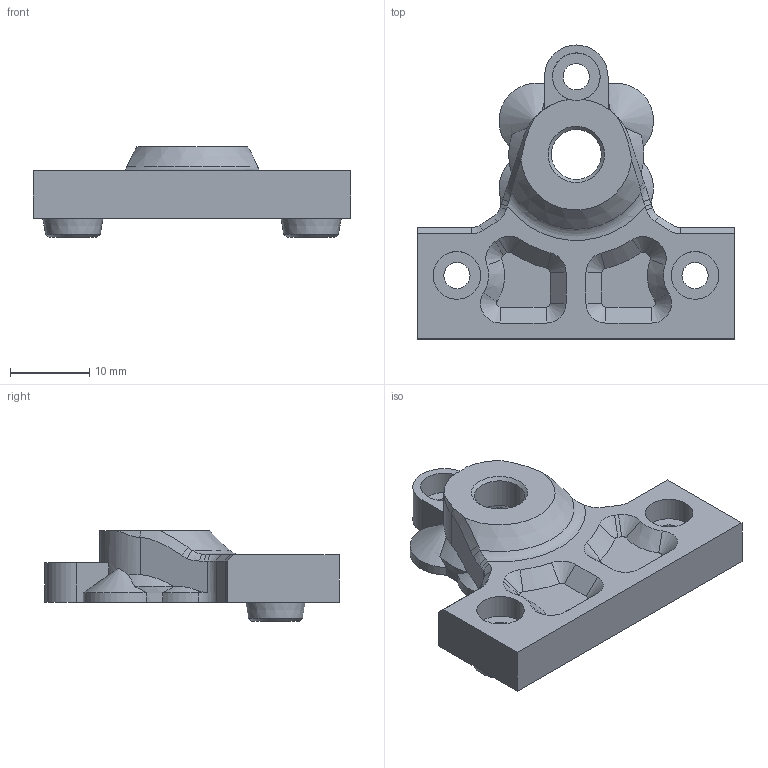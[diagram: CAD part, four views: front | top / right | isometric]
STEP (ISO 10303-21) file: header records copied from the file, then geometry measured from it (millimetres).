
FILE_DESCRIPTION(/* description */ (''),/* implementation_level */ '2;1');
FILE_NAME(/* name */ 'HMG7-E3D-Revo-Voron-Bowden-Colette-Cap.step',/* time_stamp */ '2022-11-01T21:36:31-07:00',/* author */ (''),/* organization */ (''),/* preprocessor_version */ 'ST-DEVELOPER v19.2',/* originating_system */ 'Autodesk Translation Framework v11.17.0.187',/* authorisation */ '');
FILE_SCHEMA (('AUTOMOTIVE_DESIGN { 1 0 10303 214 3 1 1 }'));
Length unit declared in the file: millimetre
Products named in the file (4): GEN_7_1.5; Revo_Voron; Revo_Voron_Mount; Bowden_Insert
Assembly tree (3 placements, depth 4):
  GEN_7_1.5
    Revo_Voron
      Revo_Voron_Mount
        Bowden_Insert
Bounding box: 40 x 37.03 x 11.38 mm (x, y, z)
Volume: 4995.8 mm3; surface area: 3258.9 mm2
Topology: 1 solids, 1 shells, 106 faces, 276 edges, 178 vertices
Faces by surface type: cone 36, plane 36, cylinder 23, bspline 10, torus 1
Full cylindrical faces by diameter (mm): 3.3 x3, 6 x3, 6.3 x1, 8.4 x1
Entity records: 3698 total; most frequent: CARTESIAN_POINT 1024, ORIENTED_EDGE 552, DIRECTION 529, EDGE_CURVE 276, AXIS2_PLACEMENT_3D 202, VERTEX_POINT 178, LINE 125, VECTOR 125
